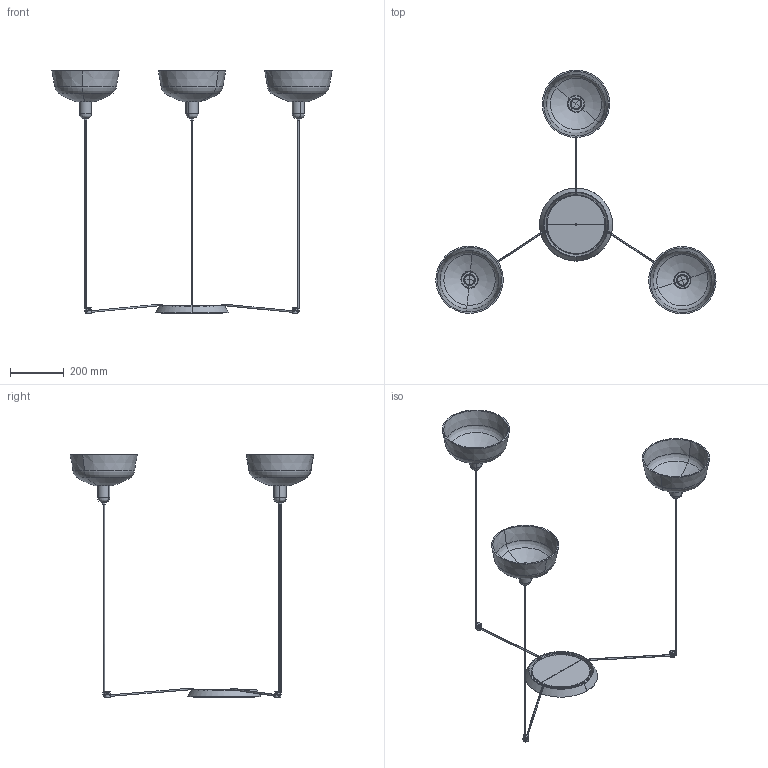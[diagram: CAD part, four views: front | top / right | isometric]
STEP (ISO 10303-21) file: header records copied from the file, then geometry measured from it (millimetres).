
FILE_DESCRIPTION(/* description */ (''),/* implementation_level */ '2;1');
FILE_NAME(/* name */ '20340-119-3L.step',/* time_stamp */ '2024-05-29T16:03:45+02:00',/* author */ ('RenataManzini'),/* organization */ (''),/* preprocessor_version */ 'ST-DEVELOPER v20',/* originating_system */ 'AutoCAD Mechanical',/* authorisation */ '');
FILE_SCHEMA (('AUTOMOTIVE_DESIGN { 1 0 10303 214 3 1 1 }'));
Length unit declared in the file: millimetre
Products named in the file (2): Product; TATAWIN_CAN3 - COLGANTE-542681-_3D_
Assembly tree (1 placements, depth 2):
  Product
    TATAWIN_CAN3 - COLGANTE-542681-_3D_
Bounding box: 1047.09 x 911.39 x 906.18 mm (x, y, z)
Volume: 2023874.7 mm3; surface area: 989500.1 mm2
Topology: 29 solids, 29 shells, 559 faces, 1298 edges, 781 vertices
Faces by surface type: cylinder 213, plane 196, torus 72, cone 60, bspline 18
Entity records: 21390 total; most frequent: CARTESIAN_POINT 8886, ORIENTED_EDGE 2578, DIRECTION 2543, EDGE_CURVE 1289, AXIS2_PLACEMENT_3D 1024, VERTEX_POINT 776, EDGE_LOOP 629, FACE_OUTER_BOUND 559
